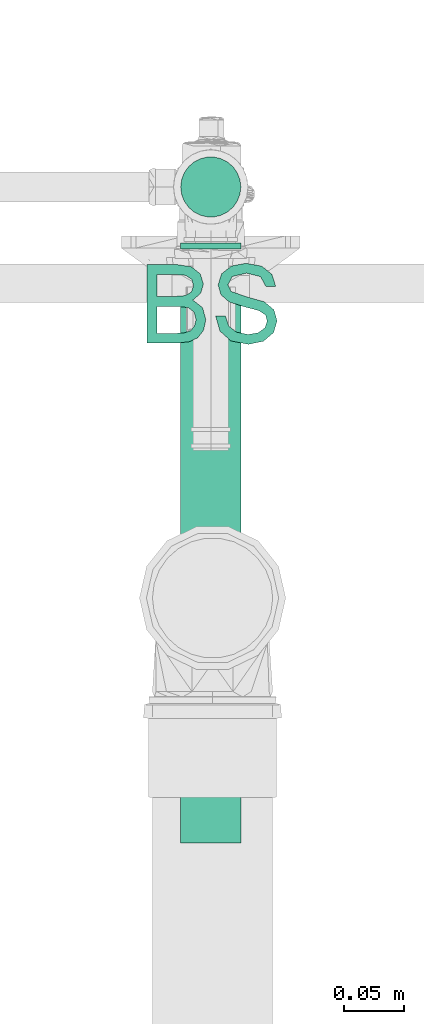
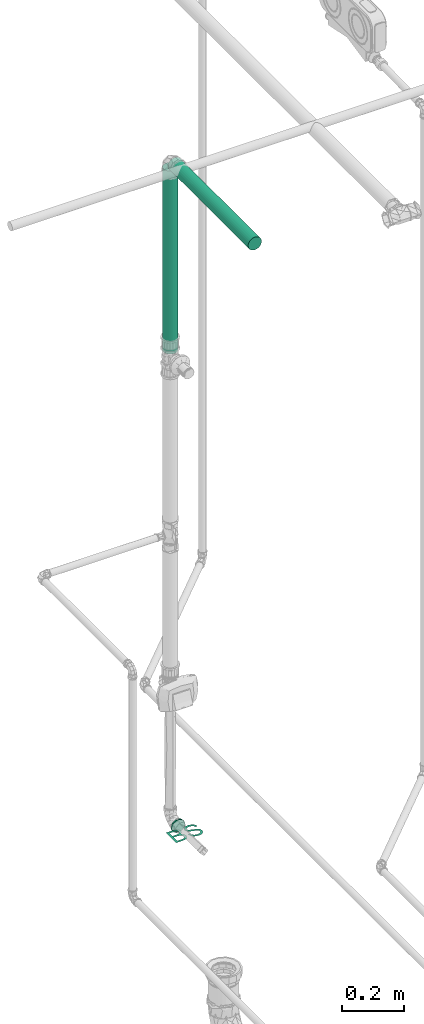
# One storey, part 58 of 589: 2 flow segments, 1 flow terminal.
"""IFC2X3 building model written with IfcOpenShell, lengths in millimetres."""

from ifc_helpers import new_model, entity, si_unit, converted_unit, derived_unit, direction, frame, frame_2d, origin, place, context, subcontext, project, spatial, circle, extrude, face_set, surface_model, source, transform, mapped, material, type_object, type_shapes, element, save


model = new_model("IFC2X3")

# Units and contexts
model_context = context("Model", 3, precision=0.01, world=origin(), true_north=direction((6.123031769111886e-17, 1.0)))
body_context = subcontext(model_context, "Body", "Model", "MODEL_VIEW")
ifc_project = project(units=[si_unit("LENGTHUNIT", "METRE", prefix="MILLI"), si_unit("AREAUNIT", "SQUARE_METRE"), si_unit("VOLUMEUNIT", "CUBIC_METRE"), converted_unit("PLANEANGLEUNIT", "DEGREE", entity("IfcRatioMeasure", 0.017453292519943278), si_unit("PLANEANGLEUNIT", "RADIAN"), dimensions=[0, 0, 0, 0, 0, 0, 0]), si_unit("MASSUNIT", "GRAM", prefix="KILO"), derived_unit("MASSDENSITYUNIT", [(si_unit("MASSUNIT", "GRAM", prefix="KILO"), 1), (si_unit("LENGTHUNIT", "METRE"), -3)]), derived_unit("IONCONCENTRATIONUNIT", [(si_unit("MASSUNIT", "GRAM", prefix="KILO"), 1), (si_unit("LENGTHUNIT", "METRE"), -3)]), derived_unit("MOMENTOFINERTIAUNIT", [(si_unit("LENGTHUNIT", "METRE"), 4)]), si_unit("TIMEUNIT", "SECOND"), si_unit("FREQUENCYUNIT", "HERTZ"), si_unit("THERMODYNAMICTEMPERATUREUNIT", "DEGREE_CELSIUS"), derived_unit("THERMALTRANSMITTANCEUNIT", [(si_unit("MASSUNIT", "GRAM", prefix="KILO"), 1), (si_unit("THERMODYNAMICTEMPERATUREUNIT", "KELVIN"), -1), (si_unit("TIMEUNIT", "SECOND"), -3)]), derived_unit("THERMALCONDUCTANCEUNIT", [(si_unit("MASSUNIT", "GRAM", prefix="KILO"), 1), (si_unit("THERMODYNAMICTEMPERATUREUNIT", "KELVIN"), -1), (si_unit("TIMEUNIT", "SECOND"), -3), (si_unit("LENGTHUNIT", "METRE"), 1)]), derived_unit("VOLUMETRICFLOWRATEUNIT", [(si_unit("LENGTHUNIT", "METRE"), 3), (si_unit("TIMEUNIT", "SECOND"), -1)]), derived_unit("MASSFLOWRATEUNIT", [(si_unit("MASSUNIT", "GRAM", prefix="KILO"), 1), (si_unit("TIMEUNIT", "SECOND"), -1)]), derived_unit("ROTATIONALFREQUENCYUNIT", [(si_unit("TIMEUNIT", "SECOND"), -1)]), si_unit("ELECTRICCURRENTUNIT", "AMPERE"), si_unit("ELECTRICVOLTAGEUNIT", "VOLT"), si_unit("POWERUNIT", "WATT"), si_unit("FORCEUNIT", "NEWTON", prefix="KILO"), si_unit("ILLUMINANCEUNIT", "LUX"), si_unit("LUMINOUSFLUXUNIT", "LUMEN"), si_unit("LUMINOUSINTENSITYUNIT", "CANDELA"), derived_unit("USERDEFINED", [(si_unit("MASSUNIT", "GRAM", prefix="KILO"), -1), (si_unit("LENGTHUNIT", "METRE"), -2), (si_unit("TIMEUNIT", "SECOND"), 3), (si_unit("LUMINOUSFLUXUNIT", "LUMEN"), 1)]), derived_unit("USERDEFINED", [(si_unit("MASSUNIT", "GRAM", prefix="KILO"), 1), (si_unit("TIMEUNIT", "SECOND"), -3), (si_unit("LENGTHUNIT", "METRE"), 3), (si_unit("ELECTRICCURRENTUNIT", "AMPERE"), -2)]), derived_unit("SOUNDPOWERUNIT", [(si_unit("MASSUNIT", "GRAM", prefix="KILO"), 1), (si_unit("TIMEUNIT", "SECOND"), -3), (si_unit("LENGTHUNIT", "METRE"), 2)]), derived_unit("SOUNDPRESSUREUNIT", [(si_unit("MASSUNIT", "GRAM", prefix="KILO"), 1), (si_unit("LENGTHUNIT", "METRE"), -1), (si_unit("TIMEUNIT", "SECOND"), -2)]), derived_unit("LINEARVELOCITYUNIT", [(si_unit("LENGTHUNIT", "METRE"), 1), (si_unit("TIMEUNIT", "SECOND"), -1)]), si_unit("PRESSUREUNIT", "PASCAL"), derived_unit("USERDEFINED", [(si_unit("MASSUNIT", "GRAM", prefix="KILO"), 1), (si_unit("LENGTHUNIT", "METRE"), -2), (si_unit("TIMEUNIT", "SECOND"), -2)]), derived_unit("LINEARFORCEUNIT", [(si_unit("MASSUNIT", "GRAM", prefix="KILO"), 1), (si_unit("TIMEUNIT", "SECOND"), -2)]), derived_unit("PLANARFORCEUNIT", [(si_unit("MASSUNIT", "GRAM", prefix="KILO"), 1), (si_unit("LENGTHUNIT", "METRE"), -1), (si_unit("TIMEUNIT", "SECOND"), -2)]), derived_unit("SPECIFICHEATCAPACITYUNIT", [(si_unit("THERMODYNAMICTEMPERATUREUNIT", "KELVIN"), -1), (si_unit("LENGTHUNIT", "METRE"), 2), (si_unit("TIMEUNIT", "SECOND"), -2)]), derived_unit("HEATINGVALUEUNIT", [(si_unit("LENGTHUNIT", "METRE"), 2), (si_unit("TIMEUNIT", "SECOND"), -2)]), derived_unit("VAPORPERMEABILITYUNIT", [(si_unit("LENGTHUNIT", "METRE"), -1), (si_unit("TIMEUNIT", "SECOND"), 1)]), derived_unit("DYNAMICVISCOSITYUNIT", [(si_unit("MASSUNIT", "GRAM", prefix="KILO"), 1), (si_unit("TIMEUNIT", "SECOND"), -1), (si_unit("LENGTHUNIT", "METRE"), -1)]), derived_unit("THERMALEXPANSIONCOEFFICIENTUNIT", [(si_unit("THERMODYNAMICTEMPERATUREUNIT", "KELVIN"), -1)]), derived_unit("MODULUSOFELASTICITYUNIT", [(si_unit("MASSUNIT", "GRAM", prefix="KILO"), 1), (si_unit("LENGTHUNIT", "METRE"), -1), (si_unit("TIMEUNIT", "SECOND"), -2)]), derived_unit("ISOTHERMALMOISTURECAPACITYUNIT", [(si_unit("LENGTHUNIT", "METRE"), 3), (si_unit("MASSUNIT", "GRAM", prefix="KILO"), -1)]), derived_unit("MOISTUREDIFFUSIVITYUNIT", [(si_unit("TIMEUNIT", "SECOND"), -1), (si_unit("LENGTHUNIT", "METRE"), 2)])], contexts=[model_context])

# Site, building, storey
site_placement = place(None, origin())
site = spatial("IfcSite", under=ifc_project, at=site_placement, Name="Default", CompositionType="ELEMENT")
building_placement = place(site_placement, origin())
building = spatial("IfcBuilding", under=site, at=building_placement, CompositionType="ELEMENT")
storey_placement = place(building_placement, frame((0.0, 0.0, 100.0)))
storey = spatial("IfcBuildingStorey", under=building, at=storey_placement, Name="TÉRREO", CompositionType="ELEMENT", Elevation=100.0)

# Flow segments
pipe_segment_type = type_object("IfcPipeSegmentType", Name="Tipos de tubos:PVC Marrom Soldável", PredefinedType="NOTDEFINED")
flow_segment_1_placement = place(storey_placement, origin())
element("IfcFlowSegment", 1, at=flow_segment_1_placement, inside=storey, type_object=pipe_segment_type, Name="Tipos de tubos:PVC Marrom Soldável", ObjectType="Tipos de tubos:PVC Marrom Soldável", context=body_context, shape_type="SweptSolid", body=[
    extrude(circle(Radius=25.0, at=frame_2d((0.0, 5.414335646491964e-13), x_axis=(1.0, 0.0))), frame((2016.6423921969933, -8516.091283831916, 2970.0), z_axis=(0.0, 1.0, 0.0), x_axis=(-1.0, 0.0, 0.0)), (0.0, 0.0, 1.0), 516.1626197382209),
])
flow_segment_2_placement = place(storey_placement, origin())
element("IfcFlowSegment", 2, at=flow_segment_2_placement, inside=storey, type_object=pipe_segment_type, Name="Tipos de tubos:PVC Marrom Soldável", ObjectType="Tipos de tubos:PVC Marrom Soldável", context=body_context, shape_type="SweptSolid", body=[
    extrude(circle(Radius=25.0, at=frame_2d((-2.707167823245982e-13, 0.0), x_axis=(1.0, 0.0))), frame((2016.6423921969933, -7970.828664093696, 2221.5), z_axis=(0.0, 0.0, 1.0), x_axis=(-1.0, 0.0, 0.0)), (0.0, 0.0, 1.0), 719.4000000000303),
])

# Flow terminal
ifc_material = material(Name="<Unnamed>")
distribution_element_type = type_object("IfcDistributionElementType", Name="Hidráulica_Ponto de Utilização_Uso Provável_Rodrigo MEP:Bacia Sanitária com Valvula de Descarga BS (Peso 32)", material=ifc_material)
shared_shape = source(origin(), body_context, "Body", "SurfaceModel", [
    surface_model("IfcFaceBasedSurfaceModel", [(0.0, 1.0202593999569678, 26.59527223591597), (24.7253488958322, 1.0202593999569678, 26.59527223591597), (35.19097852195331, 2.1441388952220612, 26.59527223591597), (42.29294043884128, 5.45998194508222, 26.59527223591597), (47.05149404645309, 11.709070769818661, 26.59527223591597), (48.97245119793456, 20.48489576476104, 26.59527223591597), (46.158767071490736, 30.639665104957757, 26.59527223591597), (38.116253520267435, 36.72933839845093, 26.59527223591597), (44.73996884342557, 42.5081514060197, 26.59527223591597), (46.93193239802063, 50.13618457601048, 26.59527223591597), (44.32548846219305, 58.48955841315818, 26.59527223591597), (37.119906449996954, 64.39590384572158, 26.59527223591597), (24.916647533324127, 66.31686099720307, 26.59527223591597), (0.0, 66.31686099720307, 26.59527223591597), (8.162075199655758, 39.79011659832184, 26.59527223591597), (8.162075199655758, 58.1547857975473, 26.59527223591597), (21.93557709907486, 58.1547857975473, 26.59527223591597), (32.42511905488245, 57.301912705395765, 26.59527223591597), (37.12787722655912, 54.15345596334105, 26.59527223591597), (38.76985719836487, 48.82897721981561, 26.59527223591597), (37.008315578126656, 43.51246925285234, 26.59527223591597), (31.77151537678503, 40.49154493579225, 26.59527223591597), (23.06742737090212, 39.79011659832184, 26.59527223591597), (8.162075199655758, 9.182334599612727, 26.59527223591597), (8.162075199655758, 31.62804139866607, 26.59527223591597), (24.103628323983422, 31.62804139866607, 26.59527223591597), (34.18666067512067, 30.53604500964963, 26.59527223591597), (39.24810379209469, 26.749926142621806, 26.59527223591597), (40.81037599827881, 20.405187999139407, 26.59527223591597), (39.47925631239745, 14.905352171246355, 26.59527223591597), (36.08370549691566, 11.27864883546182, 26.59527223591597), (30.958496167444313, 9.501165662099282, 26.59527223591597), (24.900705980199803, 9.182334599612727, 26.59527223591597), (57.13452639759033, 23.46596619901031, 26.59527223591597), (60.65760963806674, 10.999671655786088, 26.59527223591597), (69.8797981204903, 2.741947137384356, 26.59527223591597), (84.45834845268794, 0.0, 26.59527223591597), (96.80508134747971, 2.5426777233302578, 26.59527223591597), (105.22222139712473, 9.668551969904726, 26.59527223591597), (108.14749639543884, 19.432753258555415, 26.59527223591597), (105.60481867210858, 28.66291251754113, 26.59527223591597), (97.70577909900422, 35.27865706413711, 26.59527223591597), (83.26273196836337, 39.375636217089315, 26.59527223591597), (69.93559355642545, 43.934920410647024, 26.59527223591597), (67.33712039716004, 49.594171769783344, 26.59527223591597), (71.0036776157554, 56.369331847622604, 26.59527223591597), (82.68883605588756, 59.17504519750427, 26.59527223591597), (94.34211138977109, 56.33744874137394, 26.59527223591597), (98.9651617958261, 47.9521917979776, 26.59527223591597), (107.12723699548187, 47.9521917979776, 26.59527223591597), (103.89110171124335, 58.17072735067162, 26.59527223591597), (95.28266302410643, 65.00965364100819, 26.59527223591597), (82.37000499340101, 67.33712039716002, 26.59527223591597), (70.27036617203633, 65.11327373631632, 26.59527223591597), (62.004670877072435, 58.59317850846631, 26.59527223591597), (59.175045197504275, 49.355048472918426, 26.59527223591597), (61.462658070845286, 41.24079793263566, 26.59527223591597), (68.40520445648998, 35.167066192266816, 26.59527223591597), (81.19830083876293, 31.141824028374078, 26.59527223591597), (93.0827286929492, 28.025250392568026, 26.59527223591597), (98.63038918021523, 24.318839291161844, 26.59527223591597), (99.98542119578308, 19.225513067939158, 26.59527223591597), (98.17605491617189, 13.749589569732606, 26.59527223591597), (92.66824831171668, 9.652610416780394, 26.59527223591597), (84.13951739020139, 8.162075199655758, 26.59527223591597), (74.35140377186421, 10.130857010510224, 26.59527223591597), (67.92695786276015, 15.29592022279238, 26.59527223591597), (65.2966015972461, 23.46596619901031, 26.59527223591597), (28.053488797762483, 79.08730098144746, 26.59527223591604), (28.9053431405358, 79.08730098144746, 33.065748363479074), (31.40285370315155, 79.08730098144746, 39.095272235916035), (35.375819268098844, 79.08730098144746, 44.27294176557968), (40.553488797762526, 79.08730098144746, 48.24590733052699), (46.58301267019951, 79.08730098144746, 50.74341789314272), (53.05348879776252, 79.08730098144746, 51.59527223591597), (59.52396492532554, 79.08730098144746, 50.74341789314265), (65.55348879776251, 79.08730098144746, 48.245907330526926), (70.73115832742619, 79.08730098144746, 44.27294176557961), (74.70412389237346, 79.08730098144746, 39.09527223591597), (77.20163445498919, 79.08730098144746, 33.065748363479), (78.0534887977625, 79.08730098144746, 26.595272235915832), (77.20163445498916, 79.08730098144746, 20.124796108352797), (74.70412389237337, 79.08730098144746, 14.095272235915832), (70.73115832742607, 79.08730098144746, 8.91760270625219), (65.55348879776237, 79.08730098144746, 4.944637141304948), (59.52396492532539, 79.08730098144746, 2.447126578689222), (53.05348879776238, 79.08730098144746, 1.5952722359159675), (46.58301267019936, 79.08730098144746, 2.4471265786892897), (40.5534887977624, 79.08730098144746, 4.94463714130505), (35.37581926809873, 79.08730098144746, 8.91760270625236), (31.402853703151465, 79.08730098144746, 14.095272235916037), (28.905343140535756, 79.08730098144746, 20.124796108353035), (28.053488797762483, 84.0873009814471, 26.59527223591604), (28.9053431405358, 84.0873009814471, 33.065748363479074), (31.40285370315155, 84.0873009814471, 39.095272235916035), (35.375819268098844, 84.0873009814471, 44.27294176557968), (40.553488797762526, 84.0873009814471, 48.24590733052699), (46.58301267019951, 84.0873009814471, 50.74341789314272), (53.05348879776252, 84.0873009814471, 51.59527223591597), (59.52396492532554, 84.0873009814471, 50.74341789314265), (65.55348879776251, 84.0873009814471, 48.245907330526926), (70.73115832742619, 84.0873009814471, 44.27294176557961), (74.70412389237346, 84.0873009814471, 39.09527223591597), (77.20163445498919, 84.0873009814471, 33.065748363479), (78.0534887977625, 84.0873009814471, 26.59527223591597), (77.20163445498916, 84.0873009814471, 20.124796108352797), (74.70412389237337, 84.0873009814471, 14.095272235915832), (70.73115832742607, 84.0873009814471, 8.91760270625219), (65.55348879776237, 84.0873009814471, 4.944637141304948), (59.52396492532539, 84.0873009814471, 2.447126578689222), (53.05348879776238, 84.0873009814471, 1.5952722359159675), (46.58301267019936, 84.0873009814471, 2.4471265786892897), (40.5534887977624, 84.0873009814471, 4.94463714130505), (35.37581926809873, 84.0873009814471, 8.91760270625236), (31.402853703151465, 84.0873009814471, 14.095272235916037), (28.905343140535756, 84.0873009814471, 20.124796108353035)], [face_set([[[0, 1, 2, 3, 4, 5, 6, 7, 8, 9, 10, 11, 12, 13], [14, 15, 16, 17, 18, 19, 20, 21, 22], [23, 24, 25, 26, 27, 28, 29, 30, 31, 32]], [[33, 34, 35, 36, 37, 38, 39, 40, 41, 42, 43, 44, 45, 46, 47, 48, 49, 50, 51, 52, 53, 54, 55, 56, 57, 58, 59, 60, 61, 62, 63, 64, 65, 66, 67]]]), face_set([[[68, 69, 70, 71, 72, 73, 74, 75, 76, 77, 78, 79, 80, 81, 82, 83, 84, 85, 86, 87, 88, 89, 90, 91]], [[92, 93, 94, 95, 96, 97, 98, 99, 100, 101, 102, 103, 104, 105, 106, 107, 108, 109, 110, 111, 112, 113, 114, 115]], [[92, 115, 91, 68]], [[115, 114, 90, 91]], [[113, 112, 88, 89]], [[114, 113, 89, 90]], [[112, 111, 87, 88]], [[86, 87, 111, 110]], [[110, 109, 85, 86]], [[109, 108, 84, 85]], [[107, 106, 82, 83]], [[108, 107, 83, 84]], [[106, 105, 81, 82]], [[80, 81, 105, 104]], [[104, 103, 79, 80]], [[103, 102, 78, 79]], [[101, 100, 76, 77]], [[102, 101, 77, 78]], [[100, 99, 75, 76]], [[74, 75, 99, 98]], [[98, 97, 73, 74]], [[97, 96, 72, 73]], [[95, 94, 70, 71]], [[96, 95, 71, 72]], [[94, 93, 69, 70]], [[68, 69, 93, 92]]])]),
])
type_shapes(distribution_element_type, [shared_shape])
flow_terminal_placement = place(storey_placement, frame((1963.5889033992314, -8101.618584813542, 353.404727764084)))
element("IfcFlowTerminal", 3, at=flow_terminal_placement, inside=storey, type_object=distribution_element_type, material=ifc_material, Name="Hidráulica_Ponto de Utilização_Uso Provável_Rodrigo MEP:Bacia Sanitária com Valvula de Descarga BS (Peso 32)", ObjectType="Hidráulica_Ponto de Utilização_Uso Provável_Rodrigo MEP:Bacia Sanitária com Valvula de Descarga BS (Peso 32)", context=body_context, shape_type="MappedRepresentation", body=[
    mapped(shared_shape, transform((0.0, 0.0, 0.0), scale=1.0)),
])

save(model, "model.ifc")
